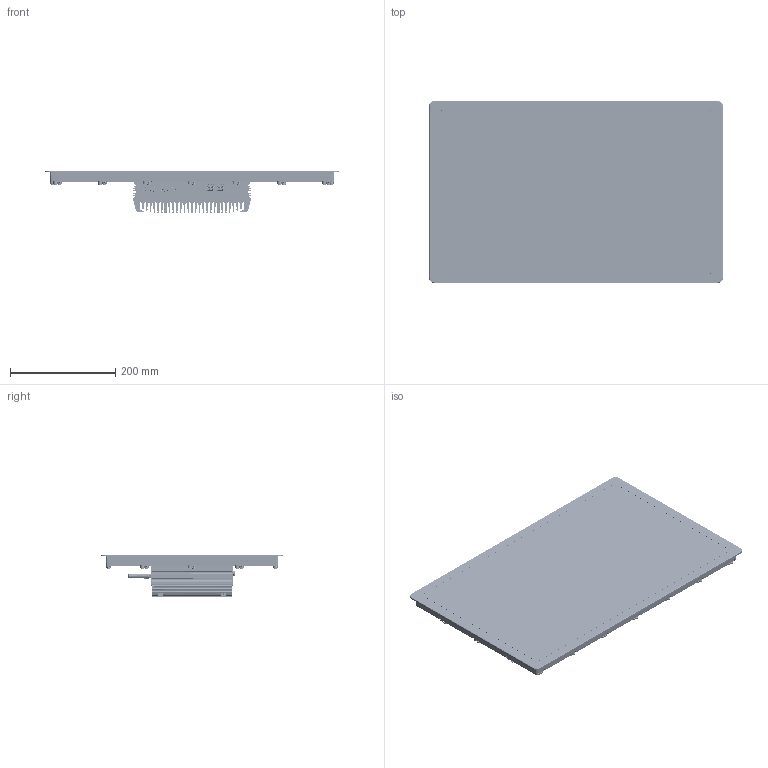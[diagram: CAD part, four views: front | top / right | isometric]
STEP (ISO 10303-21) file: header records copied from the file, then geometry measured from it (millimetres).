
FILE_DESCRIPTION(/* description */ (''),/* implementation_level */ '2;1');
FILE_NAME(/* name */ '21.5总装.stp',/* time_stamp */ '2026-03-05T10:53:13+08:00',/* author */ (''),/* organization */ (''),/* preprocessor_version */ 'ST-DEVELOPER v16',/* originating_system */ 'SIEMENS PLM Software NX 10.0',/* authorisation */ '');
FILE_SCHEMA (('AP203_CONFIGURATION_CONTROLLED_3D_DESIGN_OF_MECHANICAL_PARTS_AND_ASSEMBLIES_MIM_LF { 1 0 10303 403 2 1 2}'));
Products named in the file (1): Admi1FF8C4AFeqc3
Bounding box: 557 x 345 x 81.5 mm (x, y, z)
Volume: 1720672.3 mm3; surface area: 1280084.8 mm2
Topology: 247 solids, 270 shells, 16859 faces, 43220 edges, 27065 vertices
Faces by surface type: cylinder 6967, plane 6291, bspline 2191, torus 820, cone 472, sphere 118
Full cylindrical faces by diameter (mm): 4.2 x1, 6 x14, 7 x20
Entity records: 724263 total; most frequent: CARTESIAN_POINT 396160, ORIENTED_EDGE 85570, EDGE_CURVE 42791, DIRECTION 41967, B_SPLINE_CURVE_WITH_KNOTS 30681, VERTEX_POINT 27026, AXIS2_PLACEMENT_3D 18590, EDGE_LOOP 17913
